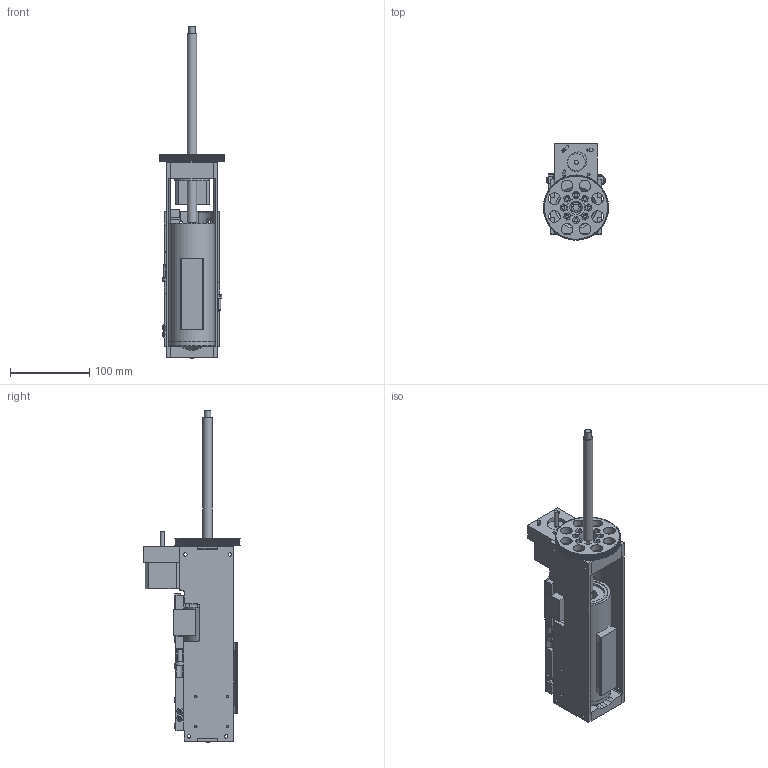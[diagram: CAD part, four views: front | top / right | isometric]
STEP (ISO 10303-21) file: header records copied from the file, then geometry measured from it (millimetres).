
FILE_DESCRIPTION(/* description */ (''),/* implementation_level */ '2;1');
FILE_NAME(/* name */ 'C:/Dropbox/cba/end-effectors/2019-06_mudstick/cad/2021-06-30_mudstick-v19.step',/* time_stamp */ '2021-06-30T12:10:50-04:00',/* author */ (''),/* organization */ (''),/* preprocessor_version */ 'ST-DEVELOPER v18.1',/* originating_system */ 'Autodesk Translation Framework v10.9.0.1377',/* authorisation */ '');
FILE_SCHEMA (('AUTOMOTIVE_DESIGN { 1 0 10303 214 3 1 1 }'));
Length unit declared in the file: millimetre
Products named in the file (7): Mudstick; N17 48mm; Mudstick Plate; Hotplate Pogo Drop; BHCS M4 x 25 92095A197; PULL OUT DOWEL 6x16 97355A292; BHCS M4x10 92095A190
Assembly tree (10 placements, depth 3):
  Mudstick
    N17 48mm
    Mudstick Plate
      Hotplate Pogo Drop
      BHCS M4 x 25 92095A197  x2
      PULL OUT DOWEL 6x16 97355A292  x2
      BHCS M4x10 92095A190  x3
Bounding box: 82.19 x 121.53 x 418.24 mm (x, y, z)
Volume: 737369.3 mm3; surface area: 289865.4 mm2
Topology: 22 solids, 22 shells, 1784 faces, 4911 edges, 3207 vertices
Faces by surface type: cylinder 1176, plane 435, cone 92, bspline 63, sphere 9, torus 9
Full cylindrical faces by diameter (mm): 2.6 x2, 3 x4, 3.091 x86, 3.25 x1, 3.3 x11, 3.4 x6, 4 x122, 4.25 x44, 5 x1, 6 x2, 7.6 x5, 8 x2, 8.5 x5, 10 x2, 12 x3, 14.392 x1, 14.74 x8, 16 x1, 22 x1, 22.5 x2, 23.2 x1, 40 x2, 44 x2, 46 x1, 48.8 x1, 49.8 x4, 50.7 x2, 50.8 x1, 52 x2, 57.4 x2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
Entity records: 78380 total; most frequent: CARTESIAN_POINT 40585, ORIENTED_EDGE 8754, DIRECTION 6432, EDGE_CURVE 4377, VERTEX_POINT 2870, AXIS2_PLACEMENT_3D 2254, LINE 1924, VECTOR 1924
